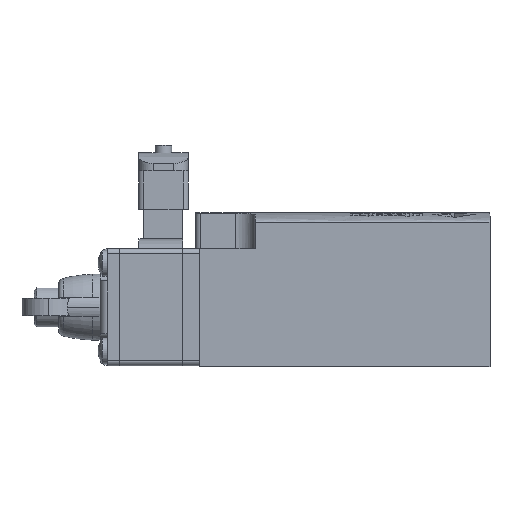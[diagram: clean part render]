
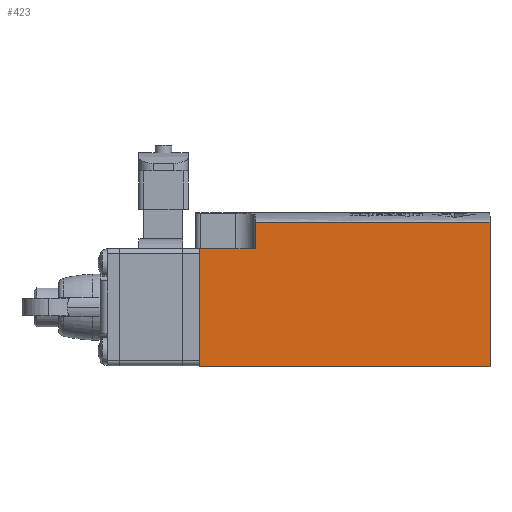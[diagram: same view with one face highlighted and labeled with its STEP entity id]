
A CAD part, left-side view. The second image highlights one B-rep face of the part: STEP entity #423.
In plain terms, the highlighted planar face has unit normal (-1, 0, 0).
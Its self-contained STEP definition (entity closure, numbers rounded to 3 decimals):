
#209 = DIRECTION ( 'NONE',  ( 0., 0., 1. ) ) ;
#423 = ADVANCED_FACE ( 'NONE', ( #5075 ), #13921, .F. ) ;
#527 = VECTOR ( 'NONE', #17173, 1000. ) ;
#945 = VECTOR ( 'NONE', #209, 1000. ) ;
#1058 = CARTESIAN_POINT ( 'NONE',  ( -15.6, -15.433, 17.4 ) ) ;
#1221 = ORIENTED_EDGE ( 'NONE', *, *, #1609, .F. ) ;
#1484 = CARTESIAN_POINT ( 'NONE',  ( -15.6, -31.5, -12.2 ) ) ;
#1609 = EDGE_CURVE ( 'NONE', #6657, #6157, #9419, .T. ) ;
#1881 = B_SPLINE_CURVE_WITH_KNOTS ( 'NONE', 3,
 ( #11585, #1058, #16169, #9903 ),
 .UNSPECIFIED., .F., .F.,
 ( 4, 4 ),
 ( 0., 1. ),
 .UNSPECIFIED. ) ;
#1887 = DIRECTION ( 'NONE',  ( 1., 0., 0. ) ) ;
#2428 = DIRECTION ( 'NONE',  ( 0., 0., -1. ) ) ;
#2585 = CARTESIAN_POINT ( 'NONE',  ( -15.6, 28., 12. ) ) ;
#3577 = DIRECTION ( 'NONE',  ( 0., 1., 0. ) ) ;
#4031 = DIRECTION ( 'NONE',  ( 0., 0., -1. ) ) ;
#4363 = CARTESIAN_POINT ( 'NONE',  ( -15.6, -31.5, -12.2 ) ) ;
#4368 = VECTOR ( 'NONE', #7552, 1000. ) ;
#4761 = VERTEX_POINT ( 'NONE', #4363 ) ;
#4936 = CARTESIAN_POINT ( 'NONE',  ( -15.6, 16.7, 12. ) ) ;
#4952 = CARTESIAN_POINT ( 'NONE',  ( -15.6, 28., 12. ) ) ;
#5075 = FACE_OUTER_BOUND ( 'NONE', #15893, .T. ) ;
#5455 = VERTEX_POINT ( 'NONE', #16441 ) ;
#5666 = VERTEX_POINT ( 'NONE', #14334 ) ;
#5965 = LINE ( 'NONE', #1484, #4368 ) ;
#6157 = VERTEX_POINT ( 'NONE', #4936 ) ;
#6657 = VERTEX_POINT ( 'NONE', #2585 ) ;
#6722 = CARTESIAN_POINT ( 'NONE',  ( -15.6, -31.5, 19.4 ) ) ;
#7552 = DIRECTION ( 'NONE',  ( 0., -1., 0. ) ) ;
#7555 = VERTEX_POINT ( 'NONE', #14033 ) ;
#7704 = AXIS2_PLACEMENT_3D ( 'NONE', #15500, #1887, #3577 ) ;
#7764 = CARTESIAN_POINT ( 'NONE',  ( -15.6, 16.7, 12. ) ) ;
#7803 = EDGE_CURVE ( 'NONE', #5666, #4761, #5965, .T. ) ;
#8200 = LINE ( 'NONE', #14267, #15425 ) ;
#8393 = EDGE_CURVE ( 'NONE', #5455, #4761, #14269, .T. ) ;
#9419 = LINE ( 'NONE', #4952, #527 ) ;
#9793 = VECTOR ( 'NONE', #4031, 1000. ) ;
#9903 = CARTESIAN_POINT ( 'NONE',  ( -15.6, 16.7, 17.4 ) ) ;
#10502 = ORIENTED_EDGE ( 'NONE', *, *, #8393, .F. ) ;
#11585 = CARTESIAN_POINT ( 'NONE',  ( -15.6, -31.5, 17.4 ) ) ;
#13921 = PLANE ( 'NONE',  #7704 ) ;
#14033 = CARTESIAN_POINT ( 'NONE',  ( -15.6, 16.7, 17.4 ) ) ;
#14229 = EDGE_CURVE ( 'NONE', #6157, #7555, #15319, .T. ) ;
#14267 = CARTESIAN_POINT ( 'NONE',  ( -15.6, 28., 19.4 ) ) ;
#14269 = LINE ( 'NONE', #6722, #9793 ) ;
#14334 = CARTESIAN_POINT ( 'NONE',  ( -15.6, 28., -12.2 ) ) ;
#15319 = LINE ( 'NONE', #7764, #945 ) ;
#15425 = VECTOR ( 'NONE', #2428, 1000. ) ;
#15500 = CARTESIAN_POINT ( 'NONE',  ( -15.6, -31.5, 19.4 ) ) ;
#15712 = EDGE_CURVE ( 'NONE', #5455, #7555, #1881, .T. ) ;
#15893 = EDGE_LOOP ( 'NONE', ( #10502, #18373, #18228, #1221, #18849, #18043 ) ) ;
#16169 = CARTESIAN_POINT ( 'NONE',  ( -15.6, 0.633, 17.4 ) ) ;
#16441 = CARTESIAN_POINT ( 'NONE',  ( -15.6, -31.5, 17.4 ) ) ;
#16508 = EDGE_CURVE ( 'NONE', #6657, #5666, #8200, .T. ) ;
#17173 = DIRECTION ( 'NONE',  ( 0., -1., 0. ) ) ;
#18043 = ORIENTED_EDGE ( 'NONE', *, *, #7803, .T. ) ;
#18228 = ORIENTED_EDGE ( 'NONE', *, *, #14229, .F. ) ;
#18373 = ORIENTED_EDGE ( 'NONE', *, *, #15712, .T. ) ;
#18849 = ORIENTED_EDGE ( 'NONE', *, *, #16508, .T. ) ;
